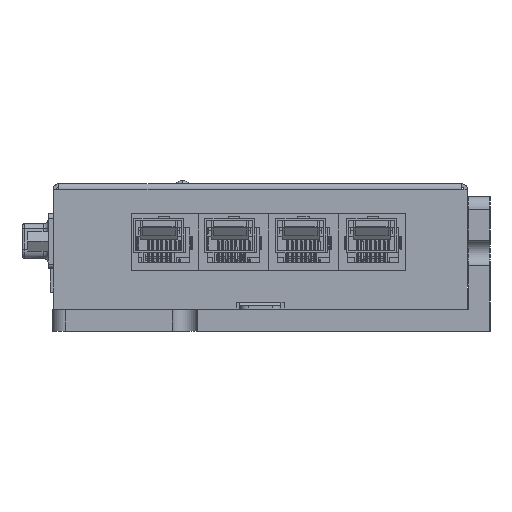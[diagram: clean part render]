
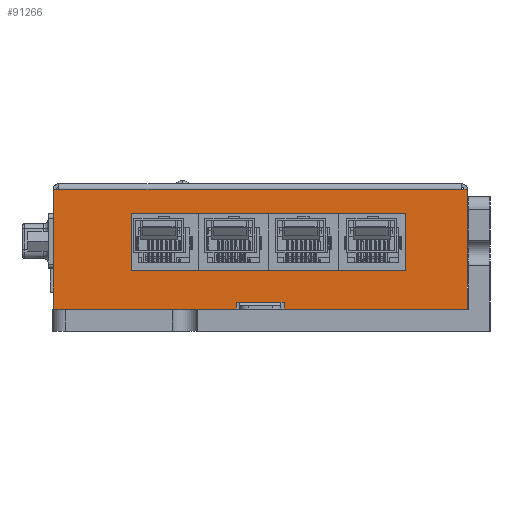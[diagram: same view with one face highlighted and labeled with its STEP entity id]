
A CAD part, left-side view. The second image highlights one B-rep face of the part: STEP entity #91266.
In plain terms, the highlighted planar face has unit normal (-1, 0, 0) as drawn and (1, 0, 0) by its records, which use the part's own axes.
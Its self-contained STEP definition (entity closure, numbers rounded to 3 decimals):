
#88677=DIRECTION('',(0.,1.,0.));
#88678=VECTOR('',#88677,63.);
#88679=CARTESIAN_POINT('',(95.3,-29.591,-6.1));
#88680=LINE('',#88679,#88678);
#88681=DIRECTION('',(0.,0.,1.));
#88682=VECTOR('',#88681,13.1);
#88683=CARTESIAN_POINT('',(95.3,-29.591,-19.2));
#88684=LINE('',#88683,#88682);
#88685=DIRECTION('',(0.,-1.,0.));
#88686=VECTOR('',#88685,63.);
#88687=CARTESIAN_POINT('',(95.3,33.409,-19.2));
#88688=LINE('',#88687,#88686);
#88689=DIRECTION('',(0.,0.,-1.));
#88690=VECTOR('',#88689,13.1);
#88691=CARTESIAN_POINT('',(95.3,33.409,-6.1));
#88692=LINE('',#88691,#88690);
#88693=DIRECTION('',(0.,1.,0.));
#88694=VECTOR('',#88693,1.3);
#88695=CARTESIAN_POINT('',(95.3,46.25,-0.5));
#88696=LINE('',#88695,#88694);
#88697=DIRECTION('',(0.,0.,1.));
#88698=VECTOR('',#88697,27.5);
#88699=CARTESIAN_POINT('',(95.3,47.55,-28.));
#88700=LINE('',#88699,#88698);
#88701=DIRECTION('',(0.,0.,1.));
#88702=VECTOR('',#88701,1.6);
#88703=CARTESIAN_POINT('',(95.3,5.55,-28.));
#88704=LINE('',#88703,#88702);
#88705=DIRECTION('',(0.,1.,0.));
#88706=VECTOR('',#88705,0.8);
#88707=CARTESIAN_POINT('',(95.3,4.75,-26.4));
#88708=LINE('',#88707,#88706);
#88709=DIRECTION('',(0.,-1.,0.));
#88710=VECTOR('',#88709,0.8);
#88711=CARTESIAN_POINT('',(95.3,-4.75,-26.4));
#88712=LINE('',#88711,#88710);
#88713=DIRECTION('',(0.,0.,1.));
#88714=VECTOR('',#88713,1.6);
#88715=CARTESIAN_POINT('',(95.3,-5.55,-28.));
#88716=LINE('',#88715,#88714);
#88717=DIRECTION('',(0.,0.,-1.));
#88718=VECTOR('',#88717,27.5);
#88719=CARTESIAN_POINT('',(95.3,-47.55,-0.5));
#88720=LINE('',#88719,#88718);
#88721=DIRECTION('',(0.,-1.,0.));
#88722=VECTOR('',#88721,1.3);
#88723=CARTESIAN_POINT('',(95.3,-46.25,-0.5));
#88724=LINE('',#88723,#88722);
#88797=DIRECTION('',(0.,1.,0.));
#88798=VECTOR('',#88797,42.);
#88799=CARTESIAN_POINT('',(95.3,-47.55,-28.));
#88800=LINE('',#88799,#88798);
#88805=DIRECTION('',(0.,1.,0.));
#88806=VECTOR('',#88805,42.);
#88807=CARTESIAN_POINT('',(95.3,5.55,-28.));
#88808=LINE('',#88807,#88806);
#88834=DIRECTION('',(0.,1.,0.));
#88835=VECTOR('',#88834,9.5);
#88836=CARTESIAN_POINT('',(95.3,-4.75,-26.4));
#88837=LINE('',#88836,#88835);
#88985=DIRECTION('',(0.,-1.,0.));
#88986=VECTOR('',#88985,92.5);
#88987=CARTESIAN_POINT('',(95.3,46.25,-0.5));
#88988=LINE('',#88987,#88986);
#89779=CARTESIAN_POINT('',(95.3,-29.591,-6.1));
#89780=CARTESIAN_POINT('',(95.3,33.409,-6.1));
#89781=VERTEX_POINT('',#89779);
#89782=VERTEX_POINT('',#89780);
#89783=CARTESIAN_POINT('',(95.3,33.409,-19.2));
#89784=CARTESIAN_POINT('',(95.3,-29.591,-19.2));
#89785=VERTEX_POINT('',#89783);
#89786=VERTEX_POINT('',#89784);
#89815=CARTESIAN_POINT('',(95.3,-47.55,-0.5));
#89816=CARTESIAN_POINT('',(95.3,-47.55,-28.));
#89817=VERTEX_POINT('',#89815);
#89818=VERTEX_POINT('',#89816);
#89820=CARTESIAN_POINT('',(95.3,-46.25,-0.5));
#89822=VERTEX_POINT('',#89820);
#89827=CARTESIAN_POINT('',(95.3,47.55,-28.));
#89828=CARTESIAN_POINT('',(95.3,47.55,-0.5));
#89829=VERTEX_POINT('',#89827);
#89830=VERTEX_POINT('',#89828);
#89831=CARTESIAN_POINT('',(95.3,46.25,-0.5));
#89832=VERTEX_POINT('',#89831);
#89987=CARTESIAN_POINT('',(95.3,4.75,-26.4));
#89988=CARTESIAN_POINT('',(95.3,5.55,-26.4));
#89989=VERTEX_POINT('',#89987);
#89990=VERTEX_POINT('',#89988);
#89991=CARTESIAN_POINT('',(95.3,5.55,-28.));
#89992=VERTEX_POINT('',#89991);
#89999=CARTESIAN_POINT('',(95.3,-4.75,-26.4));
#90000=CARTESIAN_POINT('',(95.3,-5.55,-26.4));
#90001=VERTEX_POINT('',#89999);
#90002=VERTEX_POINT('',#90000);
#90003=CARTESIAN_POINT('',(95.3,-5.55,-28.));
#90004=VERTEX_POINT('',#90003);
#91226=CARTESIAN_POINT('',(95.3,-46.25,0.8));
#91227=DIRECTION('',(1.,0.,0.));
#91228=DIRECTION('',(0.,-1.,0.));
#91229=AXIS2_PLACEMENT_3D('',#91226,#91227,#91228);
#91230=PLANE('',#91229);
#91232=ORIENTED_EDGE('',*,*,#91231,.F.);
#91234=ORIENTED_EDGE('',*,*,#91233,.T.);
#91236=ORIENTED_EDGE('',*,*,#91235,.F.);
#91238=ORIENTED_EDGE('',*,*,#91237,.F.);
#91240=ORIENTED_EDGE('',*,*,#91239,.T.);
#91242=ORIENTED_EDGE('',*,*,#91241,.F.);
#91244=ORIENTED_EDGE('',*,*,#91243,.F.);
#91246=ORIENTED_EDGE('',*,*,#91245,.T.);
#91248=ORIENTED_EDGE('',*,*,#91247,.F.);
#91250=ORIENTED_EDGE('',*,*,#91249,.F.);
#91252=ORIENTED_EDGE('',*,*,#91251,.F.);
#91253=ORIENTED_EDGE('',*,*,#91217,.F.);
#91254=EDGE_LOOP('',(#91232,#91234,#91236,#91238,#91240,#91242,#91244,#91246,
#91248,#91250,#91252,#91253));
#91255=FACE_OUTER_BOUND('',#91254,.F.);
#91257=ORIENTED_EDGE('',*,*,#91256,.F.);
#91259=ORIENTED_EDGE('',*,*,#91258,.F.);
#91261=ORIENTED_EDGE('',*,*,#91260,.F.);
#91263=ORIENTED_EDGE('',*,*,#91262,.F.);
#91264=EDGE_LOOP('',(#91257,#91259,#91261,#91263));
#91265=FACE_BOUND('',#91264,.F.);
#91266=ADVANCED_FACE('',(#91255,#91265),#91230,.T.);
#91217=EDGE_CURVE('',#89822,#89817,#88724,.T.);
#91231=EDGE_CURVE('',#89832,#89822,#88988,.T.);
#91233=EDGE_CURVE('',#89832,#89830,#88696,.T.);
#91235=EDGE_CURVE('',#89829,#89830,#88700,.T.);
#91237=EDGE_CURVE('',#89992,#89829,#88808,.T.);
#91239=EDGE_CURVE('',#89992,#89990,#88704,.T.);
#91241=EDGE_CURVE('',#89989,#89990,#88708,.T.);
#91243=EDGE_CURVE('',#90001,#89989,#88837,.T.);
#91245=EDGE_CURVE('',#90001,#90002,#88712,.T.);
#91247=EDGE_CURVE('',#90004,#90002,#88716,.T.);
#91249=EDGE_CURVE('',#89818,#90004,#88800,.T.);
#91251=EDGE_CURVE('',#89817,#89818,#88720,.T.);
#91256=EDGE_CURVE('',#89781,#89782,#88680,.T.);
#91258=EDGE_CURVE('',#89786,#89781,#88684,.T.);
#91260=EDGE_CURVE('',#89785,#89786,#88688,.T.);
#91262=EDGE_CURVE('',#89782,#89785,#88692,.T.);
